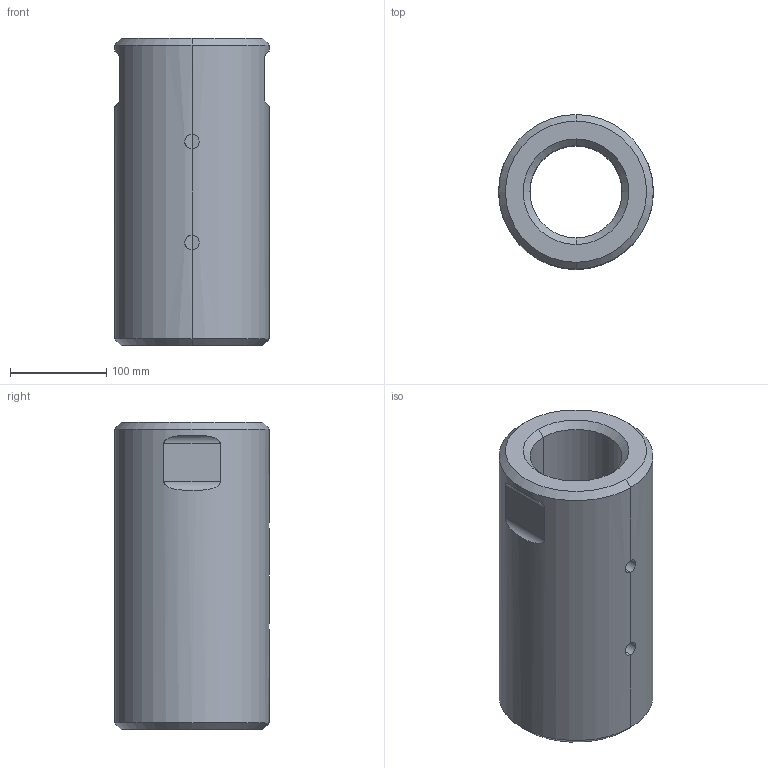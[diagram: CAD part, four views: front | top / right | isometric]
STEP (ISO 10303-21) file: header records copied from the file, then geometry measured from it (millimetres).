
FILE_DESCRIPTION (( 'STEP AP203' ), '1' );
FILE_NAME ('Spannschloss M100.STEP', '2018-02-22T10:05:26', ( 'install' ), ( 'Hewlett-Packard Company' ), 'SwSTEP 2.0', 'SolidWorks 2017', '' );
FILE_SCHEMA (( 'CONFIG_CONTROL_DESIGN' ));
Length unit declared in the file: millimetre
Products named in the file (1): Spannschloss M100
Bounding box: 161 x 161 x 320 mm (x, y, z)
Volume: 4014210.6 mm3; surface area: 284341 mm2
Topology: 1 solids, 1 shells, 30 faces, 66 edges, 38 vertices
Faces by surface type: cylinder 16, cone 8, plane 6
Entity records: 1449 total; most frequent: CARTESIAN_POINT 709, DIRECTION 140, ORIENTED_EDGE 132, EDGE_CURVE 66, AXIS2_PLACEMENT_3D 55, VERTEX_POINT 38, EDGE_LOOP 36, LINE 30
